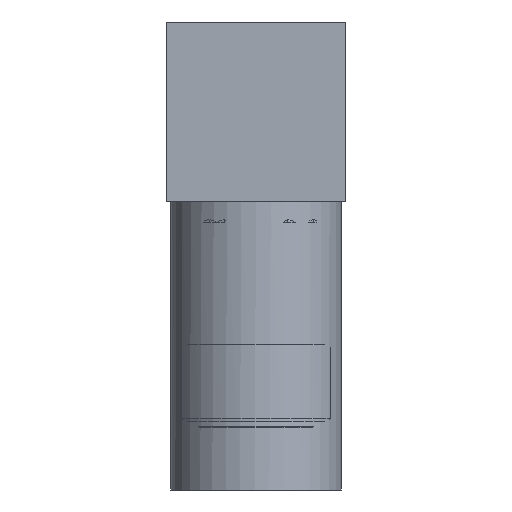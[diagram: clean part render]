
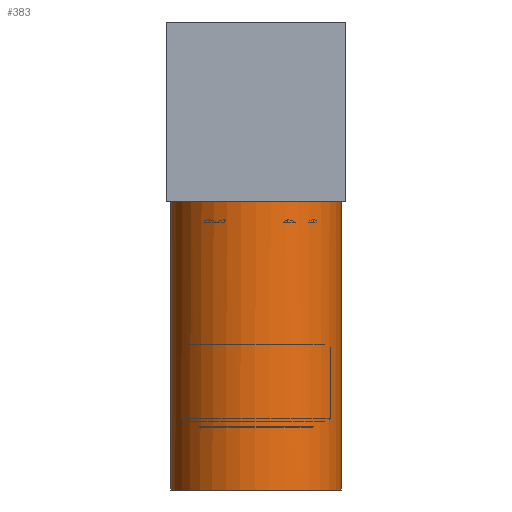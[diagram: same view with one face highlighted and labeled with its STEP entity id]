
A CAD part, left-side view. The second image highlights one B-rep face of the part: STEP entity #383.
In plain terms, the highlighted cylindrical face has radius 3.429 mm (diameter 6.858 mm), a full revolution.
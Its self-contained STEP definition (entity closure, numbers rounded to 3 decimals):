
#88 = CARTESIAN_POINT ( 'NONE',  ( 0., 0., -11.557 ) ) ;
#312 = VERTEX_POINT ( 'NONE', #2160 ) ;
#383 = ADVANCED_FACE ( 'NONE', ( #3418, #1063 ), #2379, .T. ) ;
#462 = AXIS2_PLACEMENT_3D ( 'NONE', #2120, #2632, #2066 ) ;
#465 = EDGE_LOOP ( 'NONE', ( #3291, #671 ) ) ;
#478 = CARTESIAN_POINT ( 'NONE',  ( 0., 0., 0. ) ) ;
#546 = DIRECTION ( 'NONE',  ( 1., 0., 0. ) ) ;
#561 = DIRECTION ( 'NONE',  ( 0., 0., 1. ) ) ;
#629 = CIRCLE ( 'NONE', #462, 3.429 ) ;
#671 = ORIENTED_EDGE ( 'NONE', *, *, #3111, .F. ) ;
#818 = DIRECTION ( 'NONE',  ( 0., 0., -1. ) ) ;
#1063 = FACE_OUTER_BOUND ( 'NONE', #465, .T. ) ;
#1076 = CIRCLE ( 'NONE', #2663, 3.429 ) ;
#1230 = CARTESIAN_POINT ( 'NONE',  ( 3.429, 0., -11.557 ) ) ;
#1254 = CARTESIAN_POINT ( 'NONE',  ( 3.185, 1.27, 0. ) ) ;
#1690 = EDGE_CURVE ( 'NONE', #1754, #1754, #2188, .T. ) ;
#1754 = VERTEX_POINT ( 'NONE', #1230 ) ;
#1873 = DIRECTION ( 'NONE',  ( -1., 0., 0. ) ) ;
#2066 = DIRECTION ( 'NONE',  ( 1., 0., 0. ) ) ;
#2120 = CARTESIAN_POINT ( 'NONE',  ( 0., 0., 0. ) ) ;
#2160 = CARTESIAN_POINT ( 'NONE',  ( 3.185, -1.27, 0. ) ) ;
#2188 = CIRCLE ( 'NONE', #2841, 3.429 ) ;
#2271 = DIRECTION ( 'NONE',  ( 1., 0., 0. ) ) ;
#2379 = CYLINDRICAL_SURFACE ( 'NONE', #3180, 3.429 ) ;
#2464 = VERTEX_POINT ( 'NONE', #1254 ) ;
#2540 = DIRECTION ( 'NONE',  ( 0., 0., 1. ) ) ;
#2545 = ORIENTED_EDGE ( 'NONE', *, *, #1690, .T. ) ;
#2632 = DIRECTION ( 'NONE',  ( 0., 0., 1. ) ) ;
#2663 = AXIS2_PLACEMENT_3D ( 'NONE', #478, #2540, #2271 ) ;
#2841 = AXIS2_PLACEMENT_3D ( 'NONE', #88, #561, #546 ) ;
#2927 = EDGE_CURVE ( 'NONE', #2464, #312, #1076, .T. ) ;
#2966 = EDGE_LOOP ( 'NONE', ( #2545 ) ) ;
#3111 = EDGE_CURVE ( 'NONE', #312, #2464, #629, .T. ) ;
#3179 = CARTESIAN_POINT ( 'NONE',  ( 0., 0., -1.397 ) ) ;
#3180 = AXIS2_PLACEMENT_3D ( 'NONE', #3179, #818, #1873 ) ;
#3291 = ORIENTED_EDGE ( 'NONE', *, *, #2927, .F. ) ;
#3418 = FACE_OUTER_BOUND ( 'NONE', #2966, .T. ) ;
